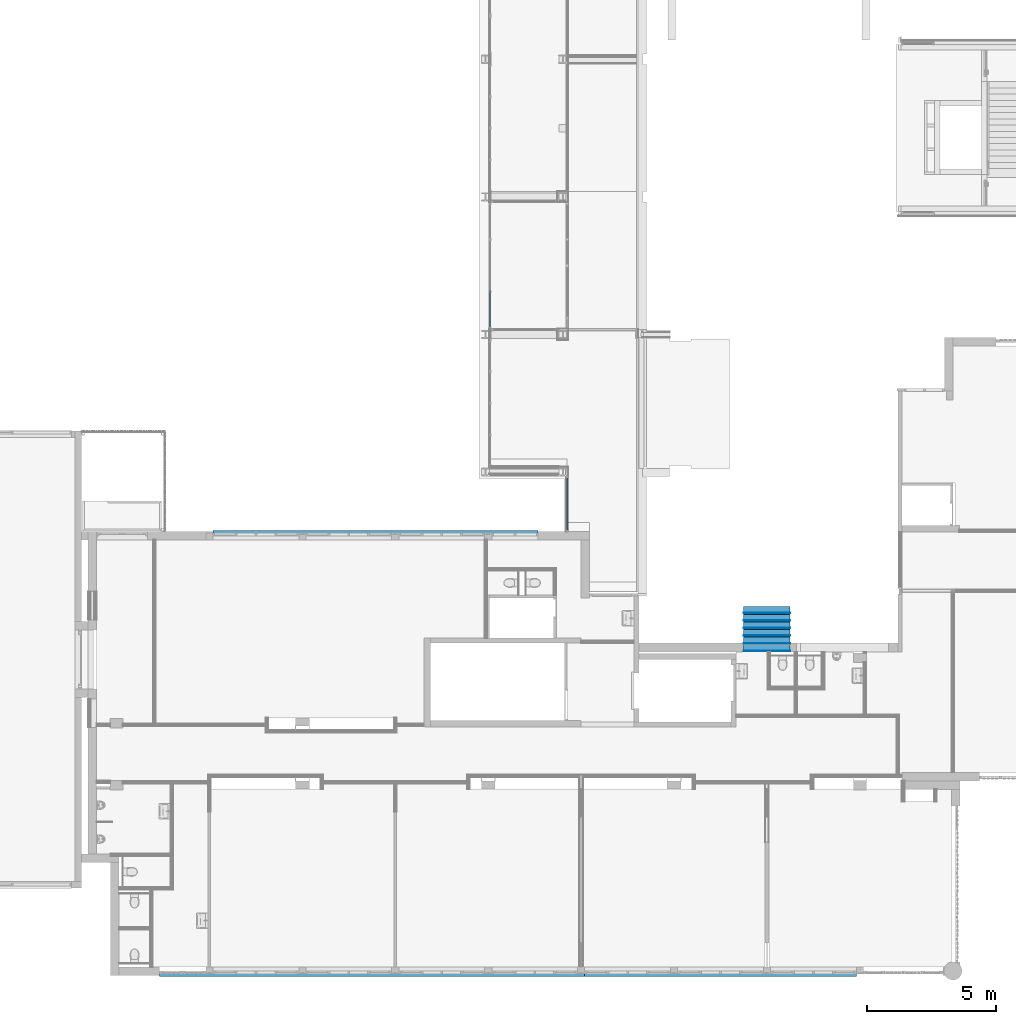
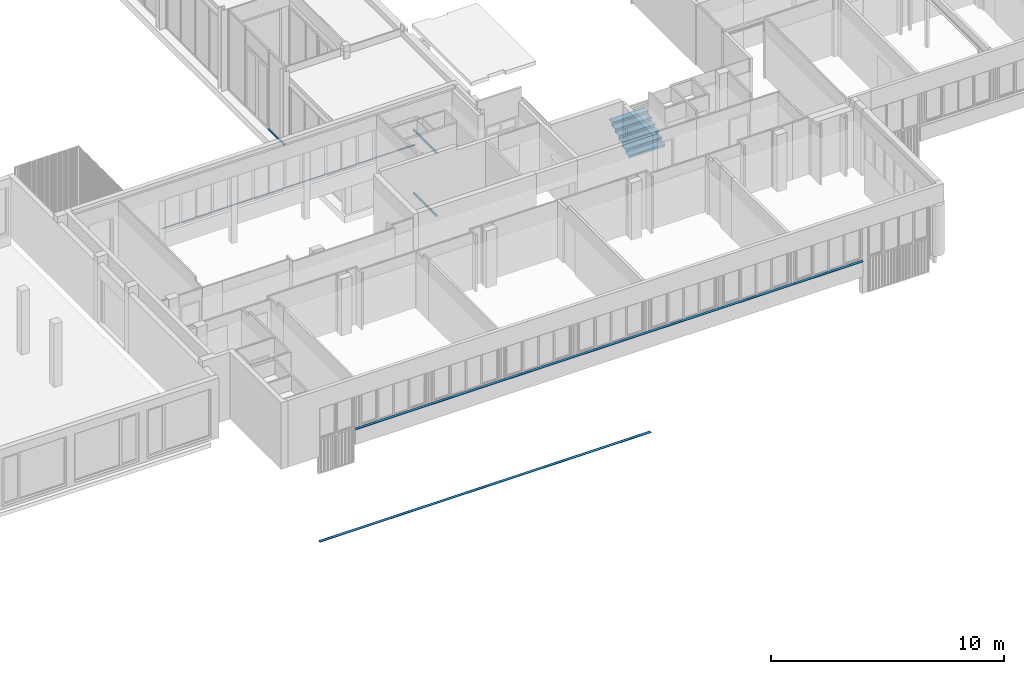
# One storey, part 20 of 99: 15 members, 3 beams, 3 elements without a shape of their own.
"""IFC2X3 building model written with IfcOpenShell, lengths in millimetres."""

from ifc_helpers import new_model, entity, si_unit, converted_unit, derived_unit, money_unit, direction, frame, origin_with_axes, place, context, subcontext, project, spatial, faceted_brep, material, type_object, element, aggregate, save


model = new_model("IFC2X3")

# Units and contexts
model_context = context("Model", 3, precision=0.01, world=origin_with_axes(), true_north=direction((0.0, 1.0)))
body_context = subcontext(model_context, "Body", "Model", "MODEL_VIEW")
ifc_project = project(units=[si_unit("LENGTHUNIT", "METRE", prefix="MILLI"), si_unit("AREAUNIT", "SQUARE_METRE"), si_unit("VOLUMEUNIT", "CUBIC_METRE"), converted_unit("PLANEANGLEUNIT", "DEGREE", entity("IfcPlaneAngleMeasure", 0.0174532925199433), si_unit("PLANEANGLEUNIT", "RADIAN"), dimensions=[0, 0, 0, 0, 0, 0, 0]), money_unit("EUR"), converted_unit("TIMEUNIT", "Year", entity("IfcTimeMeasure", 31557600.0), si_unit("TIMEUNIT", "SECOND"), dimensions=[0, 0, 1, 0, 0, 0, 0]), si_unit("MASSUNIT", "GRAM", prefix="KILO"), si_unit("THERMODYNAMICTEMPERATUREUNIT", "DEGREE_CELSIUS"), si_unit("LUMINOUSINTENSITYUNIT", "LUMEN"), si_unit("ENERGYUNIT", "JOULE", prefix="MEGA"), derived_unit("THERMALCONDUCTANCEUNIT", [(si_unit("POWERUNIT", "WATT"), 1), (si_unit("LENGTHUNIT", "METRE"), -1), (si_unit("THERMODYNAMICTEMPERATUREUNIT", "KELVIN"), -1)]), derived_unit("SPECIFICHEATCAPACITYUNIT", [(si_unit("ENERGYUNIT", "JOULE"), 1), (si_unit("MASSUNIT", "GRAM", prefix="KILO"), -1), (si_unit("THERMODYNAMICTEMPERATUREUNIT", "KELVIN"), -1)]), derived_unit("MASSDENSITYUNIT", [(si_unit("MASSUNIT", "GRAM", prefix="KILO"), 1), (si_unit("VOLUMEUNIT", "CUBIC_METRE"), -1)])], contexts=[model_context])

# Site, building, storey
site_placement = place(None, origin_with_axes())
site = spatial("IfcSite", under=ifc_project, at=site_placement, Name="Site", CompositionType="ELEMENT")
building_placement = place(site_placement, origin_with_axes())
building = spatial("IfcBuilding", under=site, at=building_placement, Name="Naam gebouw", CompositionType="ELEMENT")
storey_placement = place(building_placement, frame((0.0, 0.0, 7650.0), z_axis=(0.0, 0.0, 1.0), x_axis=(1.0, 0.0, 0.0)))
storey = spatial("IfcBuildingStorey", under=building, at=storey_placement, Name="2e verdieping N", CompositionType="ELEMENT", Elevation=7650.0)

# Beams
ifc_material_1 = material(Name="Metaal - Aluminium")
beam_type = type_object("IfcBeamType", Name="Lekdorpel 107 x 49", PredefinedType="BEAM")
beam_1_placement = place(storey_placement, frame((16337.49963815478, 20325.90462384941, 720.0000000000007), z_axis=(0.0, 0.0, 1.0), x_axis=(-1.058470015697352e-07, 0.9999999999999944, 0.0)))
element("IfcBeam", 1, at=beam_1_placement, inside=storey, type_object=beam_type, material=ifc_material_1, Name="_Balk-x", ObjectType="BEAM", context=body_context, shape_type="Brep", body=[
    faceted_brep([(27.99999999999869, 0.0, -1.678199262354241), (27.99999999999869, 12599.99999993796, -1.678199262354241), (27.99999999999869, 12599.99999993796, -16.53589838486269), (27.99999999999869, 0.0, -16.53589838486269), (-76.99999999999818, 0.0, 16.83613371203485), (-76.99999999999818, 12599.99999993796, 16.83613371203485), (-76.99999999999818, 12599.99999993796, 28.51433297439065), (-74.99999999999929, 12599.99999993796, 28.51433297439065), (-74.99999999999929, 12599.99999993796, 18.51433297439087), (30.00000000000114, 12599.99999993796, 0.0), (30.00000000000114, 12599.99999993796, -19.99999999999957), (19.99999999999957, 12599.99999993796, -14.22649730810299), (19.99999999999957, 12599.99999993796, -11.91709623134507), (19.99999999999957, 0.0, -11.91709623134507), (19.99999999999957, 0.0, -14.22649730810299), (30.00000000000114, 0.0, -19.99999999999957), (30.00000000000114, 0.0, 0.0), (-74.99999999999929, 0.0, 18.51433297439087), (-74.99999999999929, 0.0, 28.51433297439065), (-76.99999999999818, 0.0, 28.51433297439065)], [[[0, 1, 2, 3]], [[4, 5, 1, 0]], [[2, 1, 5, 6, 7, 8, 9, 10, 11, 12]], [[3, 2, 12, 13]], [[4, 0, 3, 13, 14, 15, 16, 17, 18, 19]], [[19, 6, 5, 4]], [[18, 7, 6, 19]], [[17, 8, 7, 18]], [[16, 9, 8, 17]], [[15, 10, 9, 16]], [[14, 11, 10, 15]], [[13, 12, 11, 14]]]),
])
beam_2_placement = place(storey_placement, frame((1662.449650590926, 3115.658971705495, -4560.000000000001), z_axis=(0.0, 0.0, 1.0), x_axis=(0.0, -1.0, 0.0)))
element("IfcBeam", 2, at=beam_2_placement, inside=storey, type_object=beam_type, material=ifc_material_1, Name="_Balk-x", ObjectType="BEAM", context=body_context, shape_type="Brep", body=[
    faceted_brep([(28.00000000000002, 0.0, -1.678199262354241), (27.99999999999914, 16475.00694017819, -1.678199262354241), (27.99999999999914, 16475.00694017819, -16.53589838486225), (28.00000000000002, 0.0, -16.53589838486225), (-76.99999999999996, 0.0, 16.83613371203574), (-77.0000000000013, 16475.00694017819, 16.83613371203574), (-77.0000000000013, 16475.00694017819, 28.51433297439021), (-75.00000000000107, 16475.00694017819, 28.51433297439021), (-75.00000000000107, 16475.00694017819, 18.51433297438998), (29.99999999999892, 16475.00694017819, 0.0), (29.99999999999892, 16475.00694017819, -20.00000000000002), (19.99999999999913, 16475.00694017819, -14.22649730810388), (19.99999999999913, 16475.00694017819, -11.91709623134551), (20.00000000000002, 0.0, -11.91709623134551), (20.00000000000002, 0.0, -14.22649730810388), (29.9999999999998, 0.0, -20.00000000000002), (29.9999999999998, 0.0, 0.0), (-75.00000000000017, 0.0, 18.51433297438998), (-75.00000000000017, 0.0, 28.51433297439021), (-76.99999999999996, 0.0, 28.51433297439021)], [[[0, 1, 2, 3]], [[4, 5, 1, 0]], [[2, 1, 5, 6, 7, 8, 9, 10, 11, 12]], [[3, 2, 12, 13]], [[4, 0, 3, 13, 14, 15, 16, 17, 18, 19]], [[19, 6, 5, 4]], [[18, 7, 6, 19]], [[17, 8, 7, 18]], [[16, 9, 8, 17]], [[15, 10, 9, 16]], [[14, 11, 10, 15]], [[13, 12, 11, 14]]]),
])
beam_3_placement = place(storey_placement, frame((3462.498759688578, 3115.658971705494, 719.9999999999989), z_axis=(0.0, 0.0, 1.0), x_axis=(0.0, -1.0, 0.0)))
element("IfcBeam", 3, at=beam_3_placement, inside=storey, type_object=beam_type, material=ifc_material_1, Name="_Balk-x", ObjectType="BEAM", context=body_context, shape_type="Brep", body=[
    faceted_brep([(28.00000000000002, 0.0, -1.678199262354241), (27.99999999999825, 25199.95783108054, -1.678199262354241), (27.99999999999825, 25199.95783108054, -16.53589838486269), (28.00000000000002, 0.0, -16.53589838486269), (-76.99999999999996, 0.0, 16.83613371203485), (-77.00000000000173, 25199.95783108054, 16.83613371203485), (-77.00000000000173, 25199.95783108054, 28.51433297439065), (-75.0000000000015, 25199.95783108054, 28.51433297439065), (-75.0000000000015, 25199.95783108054, 18.51433297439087), (29.99999999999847, 25199.95783108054, 0.0), (29.99999999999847, 25199.95783108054, -19.99999999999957), (19.99999999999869, 25199.95783108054, -14.22649730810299), (19.99999999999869, 25199.95783108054, -11.91709623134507), (20.00000000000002, 0.0, -11.91709623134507), (20.00000000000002, 0.0, -14.22649730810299), (29.9999999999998, 0.0, -19.99999999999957), (29.9999999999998, 0.0, 0.0), (-75.00000000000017, 0.0, 18.51433297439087), (-75.00000000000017, 0.0, 28.51433297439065), (-76.99999999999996, 0.0, 28.51433297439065)], [[[0, 1, 2, 3]], [[4, 5, 1, 0]], [[2, 1, 5, 6, 7, 8, 9, 10, 11, 12]], [[3, 2, 12, 13]], [[4, 0, 3, 13, 14, 15, 16, 17, 18, 19]], [[19, 6, 5, 4]], [[18, 7, 6, 19]], [[17, 8, 7, 18]], [[16, 9, 8, 17]], [[15, 10, 9, 16]], [[14, 11, 10, 15]], [[13, 12, 11, 14]]]),
])

# Stair, members
stair_placement = place(storey_placement, frame((24296.00000000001, 15650.91242510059, 0.0), z_axis=(0.0, 0.0, 1.0), x_axis=(-0.05672669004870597, 0.9983897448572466, 0.0)))
stair = element("IfcStair", 4, at=stair_placement, inside=storey, Name="_Trap-x", ShapeType="NOTDEFINED")
ifc_material_2 = material(Name="Hout - Vloer")
member_type_1 = type_object("IfcMemberType", Name="IfcMember", PredefinedType="USERDEFINED")
member_1_placement = place(stair_placement, frame((-51.05402104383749, -898.5507703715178, 173.3333333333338), z_axis=(0.0, 0.0, 1.0), x_axis=(-0.056726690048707, -0.9983897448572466, 0.0)))
member_1 = element("IfcMember", 5, at=member_1_placement, type_object=member_type_1, material=ifc_material_2, Name="_Traptrede-x", context=body_context, shape_type="Brep", body=[
    faceted_brep([(-900.0000000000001, 0.0, -38.0), (900.0000000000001, 0.0, -38.0), (900.0000000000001, 0.0, 0.0), (-900.0000000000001, 0.0, 0.0), (-900.0000000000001, 351.3333464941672, -38.0), (899.9999999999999, 351.3333299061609, -38.0), (899.9999999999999, 351.3333299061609, 0.0), (-900.0000000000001, 351.3333464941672, 0.0)], [[[0, 1, 2, 3]], [[0, 4, 5, 1]], [[1, 5, 6, 2]], [[3, 2, 6, 7]], [[4, 0, 3, 7]], [[5, 4, 7, 6]]]),
])
member_2_placement = place(stair_placement, frame((241.8069707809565, -915.1905994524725, 346.6666666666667), z_axis=(0.0, 0.0, 1.0), x_axis=(-0.05672669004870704, -0.9983897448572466, 0.0)))
member_2 = element("IfcMember", 6, at=member_2_placement, type_object=member_type_1, material=ifc_material_2, Name="_Traptrede-x", context=body_context, shape_type="Brep", body=[
    faceted_brep([(-900.0000000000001, 0.0, -38.0), (900.0000000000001, 0.0, -38.0), (900.0000000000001, 0.0, 0.0), (-900.0000000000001, 0.0, 0.0), (-900.0000000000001, 351.3333464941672, -38.0), (899.9999999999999, 351.3333299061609, -38.0), (899.9999999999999, 351.3333299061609, 0.0), (-900.0000000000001, 351.3333464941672, 0.0)], [[[0, 1, 2, 3]], [[0, 4, 5, 1]], [[1, 5, 6, 2]], [[3, 2, 6, 7]], [[4, 0, 3, 7]], [[5, 4, 7, 6]]]),
])
member_3_placement = place(stair_placement, frame((534.6679626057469, -931.8304285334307, 519.9999999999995), z_axis=(0.0, 0.0, 1.0), x_axis=(-0.05672669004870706, -0.9983897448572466, 0.0)))
member_3 = element("IfcMember", 7, at=member_3_placement, type_object=member_type_1, material=ifc_material_2, Name="_Traptrede-x", context=body_context, shape_type="Brep", body=[
    faceted_brep([(-900.0000000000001, 0.0, -38.0), (900.0000000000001, 0.0, -38.0), (900.0000000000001, 0.0, 0.0), (-900.0000000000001, 0.0, 0.0), (-900.0000000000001, 351.3333464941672, -38.0), (899.9999999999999, 351.3333299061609, -38.0), (899.9999999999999, 351.3333299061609, 0.0), (-900.0000000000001, 351.3333464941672, 0.0)], [[[0, 1, 2, 3]], [[0, 4, 5, 1]], [[1, 5, 6, 2]], [[3, 2, 6, 7]], [[4, 0, 3, 7]], [[5, 4, 7, 6]]]),
])
member_4_placement = place(stair_placement, frame((1120.389946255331, -965.1100866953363, 866.6666666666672), z_axis=(0.0, 0.0, 1.0), x_axis=(-0.05672669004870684, -0.9983897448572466, 0.0)))
member_4 = element("IfcMember", 8, at=member_4_placement, type_object=member_type_1, material=ifc_material_2, Name="_Traptrede-x", context=body_context, shape_type="Brep", body=[
    faceted_brep([(-900.0000000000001, 0.0, -38.0), (900.0000000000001, 0.0, -38.0), (900.0000000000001, 0.0, 0.0), (-900.0000000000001, 0.0, 0.0), (-900.0000000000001, 351.3333464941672, -38.0), (899.9999999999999, 351.3333299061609, -38.0), (899.9999999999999, 351.3333299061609, 0.0), (-900.0000000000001, 351.3333464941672, 0.0)], [[[0, 1, 2, 3]], [[0, 4, 5, 1]], [[1, 5, 6, 2]], [[3, 2, 6, 7]], [[4, 0, 3, 7]], [[5, 4, 7, 6]]]),
])
member_5_placement = place(stair_placement, frame((827.5289544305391, -948.4702576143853, 693.3333333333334), z_axis=(0.0, 0.0, 1.0), x_axis=(-0.05672669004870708, -0.9983897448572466, 0.0)))
member_5 = element("IfcMember", 9, at=member_5_placement, type_object=member_type_1, material=ifc_material_2, Name="_Traptrede-x", context=body_context, shape_type="Brep", body=[
    faceted_brep([(-900.0000000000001, 0.0, -38.0), (900.0000000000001, 0.0, -38.0), (900.0000000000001, 0.0, 0.0), (-900.0000000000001, 0.0, 0.0), (-900.0000000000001, 351.3333464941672, -38.0), (899.9999999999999, 351.3333299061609, -38.0), (899.9999999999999, 351.3333299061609, 0.0), (-900.0000000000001, 351.3333464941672, 0.0)], [[[0, 1, 2, 3]], [[0, 4, 5, 1]], [[1, 5, 6, 2]], [[3, 2, 6, 7]], [[4, 0, 3, 7]], [[5, 4, 7, 6]]]),
])
member_6_placement = place(stair_placement, frame((1413.250938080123, -981.749915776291, 1040.000000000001), z_axis=(0.0, 0.0, 1.0), x_axis=(-0.05672669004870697, -0.9983897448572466, 0.0)))
member_6 = element("IfcMember", 10, at=member_6_placement, type_object=member_type_1, material=ifc_material_2, Name="_Traptrede-x", context=body_context, shape_type="Brep", body=[
    faceted_brep([(-900.0000000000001, 0.0, -38.0), (900.0000000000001, 0.0, -38.0), (900.0000000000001, 0.0, 0.0), (-900.0000000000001, 0.0, 0.0), (-900.0000000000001, 293.3333333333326, -38.0), (899.9999999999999, 293.3333333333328, -38.0), (899.9999999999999, 293.3333333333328, 0.0), (-900.0000000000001, 293.3333333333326, 0.0)], [[[0, 1, 2, 3]], [[0, 4, 5, 1]], [[1, 5, 6, 2]], [[3, 2, 6, 7]], [[4, 0, 3, 7]], [[5, 4, 7, 6]]]),
])
member_type_2 = type_object("IfcMemberType", Name="IfcMember", PredefinedType="USERDEFINED")
member_7_placement = place(stair_placement, frame((241.8069707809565, -915.1905994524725, 308.6666666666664), z_axis=(0.0, 0.0, 1.0), x_axis=(-0.05672669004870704, -0.9983897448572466, 0.0)))
member_7 = element("IfcMember", 11, at=member_7_placement, type_object=member_type_2, material=ifc_material_2, Name="_Stootbord-x", context=body_context, shape_type="Brep", body=[
    faceted_brep([(900.0000000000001, 40.0, 0.0), (900.0000000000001, 57.99999999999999, 0.0), (-900.0000000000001, 57.99999999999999, 0.0), (-900.0000000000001, 40.0, 0.0), (900.0000000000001, 40.00000000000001, -135.3333333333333), (900.0000000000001, 58.00000000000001, -135.3333333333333), (-900.0000000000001, 58.00000000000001, -135.3333333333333), (-900.0000000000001, 40.00000000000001, -135.3333333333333)], [[[0, 1, 2, 3]], [[0, 4, 5, 1]], [[1, 5, 6, 2]], [[3, 2, 6, 7]], [[4, 0, 3, 7]], [[5, 4, 7, 6]]]),
])
member_8_placement = place(stair_placement, frame((827.5289544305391, -948.4702576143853, 655.3333333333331), z_axis=(0.0, 0.0, 1.0), x_axis=(-0.05672669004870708, -0.9983897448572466, 0.0)))
member_8 = element("IfcMember", 12, at=member_8_placement, type_object=member_type_2, material=ifc_material_2, Name="_Stootbord-x", context=body_context, shape_type="Brep", body=[
    faceted_brep([(900.0000000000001, 40.0, 0.0), (900.0000000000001, 57.99999999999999, 0.0), (-900.0000000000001, 57.99999999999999, 0.0), (-900.0000000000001, 40.0, 0.0), (900.0000000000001, 40.00000000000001, -135.3333333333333), (900.0000000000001, 58.00000000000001, -135.3333333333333), (-900.0000000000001, 58.00000000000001, -135.3333333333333), (-900.0000000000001, 40.00000000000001, -135.3333333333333)], [[[0, 1, 2, 3]], [[0, 4, 5, 1]], [[1, 5, 6, 2]], [[3, 2, 6, 7]], [[4, 0, 3, 7]], [[5, 4, 7, 6]]]),
])
member_9_placement = place(stair_placement, frame((-51.05402104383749, -898.5507703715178, 135.3333333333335), z_axis=(0.0, 0.0, 1.0), x_axis=(-0.056726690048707, -0.9983897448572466, 0.0)))
member_9 = element("IfcMember", 13, at=member_9_placement, type_object=member_type_2, material=ifc_material_2, Name="_Stootbord-x", context=body_context, shape_type="Brep", body=[
    faceted_brep([(900.0000000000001, 40.0, 0.0), (900.0000000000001, 57.99999999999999, 0.0), (-900.0000000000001, 57.99999999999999, 0.0), (-900.0000000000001, 40.0, 0.0), (900.0000000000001, 40.00000000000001, -135.3333333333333), (900.0000000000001, 58.00000000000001, -135.3333333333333), (-900.0000000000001, 58.00000000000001, -135.3333333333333), (-900.0000000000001, 40.00000000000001, -135.3333333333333)], [[[0, 1, 2, 3]], [[0, 4, 5, 1]], [[1, 5, 6, 2]], [[3, 2, 6, 7]], [[4, 0, 3, 7]], [[5, 4, 7, 6]]]),
])
member_10_placement = place(stair_placement, frame((1413.250938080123, -981.749915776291, 1002.000000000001), z_axis=(0.0, 0.0, 1.0), x_axis=(-0.05672669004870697, -0.9983897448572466, 0.0)))
member_10 = element("IfcMember", 14, at=member_10_placement, type_object=member_type_2, material=ifc_material_2, Name="_Stootbord-x", context=body_context, shape_type="Brep", body=[
    faceted_brep([(900.0000000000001, 40.0, 0.0), (900.0000000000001, 57.99999999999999, 0.0), (-900.0000000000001, 57.99999999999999, 0.0), (-900.0000000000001, 40.0, 0.0), (900.0000000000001, 40.00000000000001, -135.3333333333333), (900.0000000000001, 58.00000000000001, -135.3333333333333), (-900.0000000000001, 58.00000000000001, -135.3333333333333), (-900.0000000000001, 40.00000000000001, -135.3333333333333)], [[[0, 1, 2, 3]], [[0, 4, 5, 1]], [[1, 5, 6, 2]], [[3, 2, 6, 7]], [[4, 0, 3, 7]], [[5, 4, 7, 6]]]),
])
member_11_placement = place(stair_placement, frame((534.6679626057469, -931.8304285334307, 481.9999999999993), z_axis=(0.0, 0.0, 1.0), x_axis=(-0.05672669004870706, -0.9983897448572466, 0.0)))
member_11 = element("IfcMember", 15, at=member_11_placement, type_object=member_type_2, material=ifc_material_2, Name="_Stootbord-x", context=body_context, shape_type="Brep", body=[
    faceted_brep([(900.0000000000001, 40.0, 0.0), (900.0000000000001, 57.99999999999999, 0.0), (-900.0000000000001, 57.99999999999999, 0.0), (-900.0000000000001, 40.0, 0.0), (900.0000000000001, 40.00000000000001, -135.3333333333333), (900.0000000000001, 58.00000000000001, -135.3333333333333), (-900.0000000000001, 58.00000000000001, -135.3333333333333), (-900.0000000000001, 40.00000000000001, -135.3333333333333)], [[[0, 1, 2, 3]], [[0, 4, 5, 1]], [[1, 5, 6, 2]], [[3, 2, 6, 7]], [[4, 0, 3, 7]], [[5, 4, 7, 6]]]),
])
member_12_placement = place(stair_placement, frame((1120.389946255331, -965.1100866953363, 828.6666666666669), z_axis=(0.0, 0.0, 1.0), x_axis=(-0.05672669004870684, -0.9983897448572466, 0.0)))
member_12 = element("IfcMember", 16, at=member_12_placement, type_object=member_type_2, material=ifc_material_2, Name="_Stootbord-x", context=body_context, shape_type="Brep", body=[
    faceted_brep([(900.0000000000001, 40.0, 0.0), (900.0000000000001, 57.99999999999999, 0.0), (-900.0000000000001, 57.99999999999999, 0.0), (-900.0000000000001, 40.0, 0.0), (900.0000000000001, 40.00000000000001, -135.3333333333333), (900.0000000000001, 58.00000000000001, -135.3333333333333), (-900.0000000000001, 58.00000000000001, -135.3333333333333), (-900.0000000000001, 40.00000000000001, -135.3333333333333)], [[[0, 1, 2, 3]], [[0, 4, 5, 1]], [[1, 5, 6, 2]], [[3, 2, 6, 7]], [[4, 0, 3, 7]], [[5, 4, 7, 6]]]),
])
aggregate(stair, [member_7, member_8, member_9, member_10, member_1, member_2, member_3, member_11, member_4, member_12, member_5, member_6])

# Curtain wall, member
curtain_wall_type = type_object("IfcCurtainWallType", Name="Curtain Wall:21_CW_alu kozijn 084x065", PredefinedType="NOTDEFINED")
curtain_wall_1_placement = place(storey_placement, frame((0.0, 0.0, -7650.0), z_axis=(0.0, 0.0, 1.0), x_axis=(1.0, 0.0, 0.0)))
curtain_wall_1 = element("IfcCurtainWall", 17, at=curtain_wall_1_placement, inside=storey, type_object=curtain_wall_type, Name="Curtain Wall:21_CW_alu kozijn 084x065", ObjectType="Curtain Wall:21_CW_alu kozijn 084x065")
ifc_material_3 = material(Name="RAL 7024 - Grafietgrijs")
member_type_3 = type_object("IfcMemberType", Name="Rectangular Mullion:31_alu_084x065 RAL 7024", PredefinedType="MULLION")
member_13_placement = place(curtain_wall_1_placement, frame((14474.50000000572, 28254.91242628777, 4150.0), z_axis=(0.0, 0.0, 1.0), x_axis=(1.0, 0.0, 0.0)))
member_13 = element("IfcMember", 18, at=member_13_placement, type_object=member_type_3, material=ifc_material_3, Name="Rectangular Mullion:31_alu_084x065 RAL 7024", ObjectType="MULLION", context=body_context, shape_type="Brep", body=[
    faceted_brep([(32.49999999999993, 1393.0, 0.0), (32.49999999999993, 1393.0, 84.0), (32.50000000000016, 0.0, 84.0), (32.50000000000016, 0.0, 0.0), (-32.50000000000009, 1393.0, 0.0), (-32.50000000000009, 1393.0, 84.0), (-32.49999999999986, 0.0, 84.0), (-32.49999999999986, 0.0, 0.0)], [[[0, 1, 2, 3]], [[0, 4, 5, 1]], [[1, 5, 6, 2]], [[3, 2, 6, 7]], [[4, 0, 3, 7]], [[5, 4, 7, 6]]]),
])
aggregate(curtain_wall_1, [member_13])

# Curtain wall, members
curtain_wall_2_placement = place(storey_placement, frame((0.0, 0.0, -7650.0), z_axis=(0.0, 0.0, 1.0), x_axis=(1.0, 0.0, 0.0)))
curtain_wall_2 = element("IfcCurtainWall", 19, at=curtain_wall_2_placement, inside=storey, type_object=curtain_wall_type, Name="Curtain Wall:21_CW_alu kozijn 084x065", ObjectType="Curtain Wall:21_CW_alu kozijn 084x065")
member_type_4 = type_object("IfcMemberType", Name="Rectangular Mullion:31_alu_084x065 RAL 7024", PredefinedType="MULLION")
member_14_placement = place(curtain_wall_2_placement, frame((17474.50000003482, 20394.88439861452, 4150.0), z_axis=(0.0, 0.0, 1.0), x_axis=(1.0, 0.0, 0.0)))
member_14 = element("IfcMember", 20, at=member_14_placement, type_object=member_type_4, material=ifc_material_3, Name="Rectangular Mullion:31_alu_084x065 RAL 7024", ObjectType="MULLION", context=body_context, shape_type="Brep", body=[
    faceted_brep([(32.4999999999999, 1997.028027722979, 0.0), (32.4999999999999, 1997.028027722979, 84.0), (32.50000000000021, 0.0, 84.0), (32.50000000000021, 0.0, 0.0), (-32.50000000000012, 1997.028027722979, 0.0), (-32.50000000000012, 1997.028027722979, 84.0), (-32.4999999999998, 0.0, 84.0), (-32.4999999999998, 0.0, 0.0)], [[[0, 1, 2, 3]], [[0, 4, 5, 1]], [[1, 5, 6, 2]], [[3, 2, 6, 7]], [[4, 0, 3, 7]], [[5, 4, 7, 6]]]),
])
member_type_5 = type_object("IfcMemberType", Name="Rectangular Mullion:31_alu_084x065 RAL 7024", PredefinedType="MULLION")
member_15_placement = place(curtain_wall_2_placement, frame((17474.50000003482, 22391.91242633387, 7550.000000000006), z_axis=(0.0, 0.0, 1.0), x_axis=(1.0, 0.0, 0.0)))
member_15 = element("IfcMember", 21, at=member_15_placement, type_object=member_type_5, material=ifc_material_3, Name="Rectangular Mullion:31_alu_084x065 RAL 7024", ObjectType="MULLION", context=body_context, shape_type="Brep", body=[
    faceted_brep([(32.50000000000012, -1997.02802772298, 0.0), (32.50000000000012, -1997.02802772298, -84.0), (32.4999999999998, 0.0, -84.0), (32.4999999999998, 0.0, 0.0), (-32.4999999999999, -1997.02802772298, 0.0), (-32.4999999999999, -1997.02802772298, -84.0), (-32.50000000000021, 0.0, -84.0), (-32.50000000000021, 0.0, 0.0)], [[[0, 1, 2, 3]], [[0, 4, 5, 1]], [[1, 5, 6, 2]], [[3, 2, 6, 7]], [[4, 0, 3, 7]], [[5, 4, 7, 6]]]),
])
aggregate(curtain_wall_2, [member_14, member_15])

save(model, "model.ifc")
